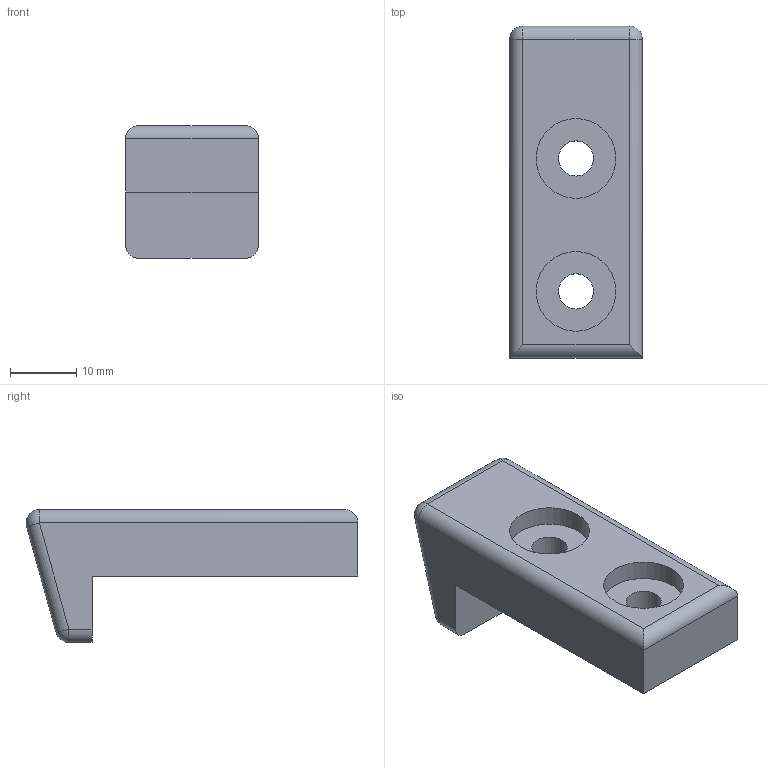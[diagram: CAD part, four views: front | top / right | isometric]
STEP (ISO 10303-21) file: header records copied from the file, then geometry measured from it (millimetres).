
FILE_DESCRIPTION((''),'2;1');
FILE_NAME('0000204014','2024-01-10T08:52:34',('Wyndorps'),(''),'CREO PARAMETRIC BY PTC INC, 2022484','CREO PARAMETRIC BY PTC INC, 2022484','');
FILE_SCHEMA(('CONFIG_CONTROL_DESIGN'));
Length unit declared in the file: millimetre
Products named in the file (1): 0000204014
Bounding box: 20 x 49.92 x 20 mm (x, y, z)
Volume: 9942.5 mm3; surface area: 4014.6 mm2
Topology: 1 solids, 1 shells, 31 faces, 67 edges, 40 vertices
Faces by surface type: cylinder 17, plane 10, sphere 4
Entity records: 897 total; most frequent: DIRECTION 157, CARTESIAN_POINT 154, ORIENTED_EDGE 134, EDGE_CURVE 67, AXIS2_PLACEMENT_3D 61, VERTEX_POINT 40, EDGE_LOOP 37, VECTOR 35
